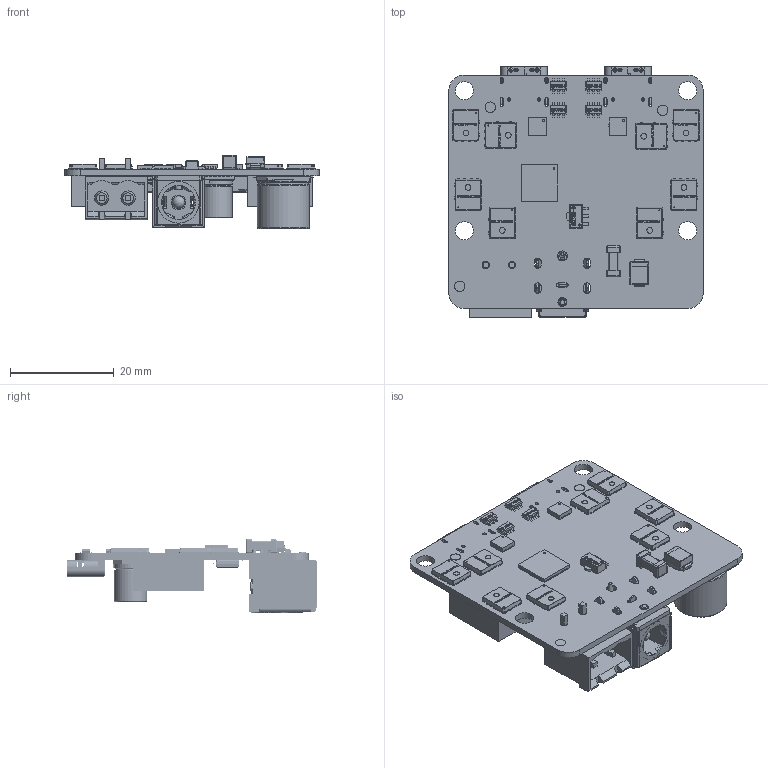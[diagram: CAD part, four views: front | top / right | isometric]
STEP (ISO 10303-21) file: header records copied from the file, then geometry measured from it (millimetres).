
FILE_DESCRIPTION(/* description */ (''),/* implementation_level */ '2;1');
FILE_NAME(/* name */ 'WTF-2xIP6559_Model3D_JWV1.step',/* time_stamp */ '2023-03-27T12:14:18-04:00',/* author */ (''),/* organization */ (''),/* preprocessor_version */ 'ST-DEVELOPER v19.2',/* originating_system */ 'Autodesk Translation Framework v11.17.0.187',/* authorisation */ '');
FILE_SCHEMA (('AUTOMOTIVE_DESIGN { 1 0 10303 214 3 1 1 }'));
Products named in the file (185): (Unsaved); Board; Open CASCADE STEP translator 6.8 1.1.1; DIP-Switch 2; DIP-Switch 1; User_Library-DHN-04F; 750266824; Open_CASCADE_STEP_translator_6.8_20.1; Body; Open_CASCADE_STEP_translator_6.8_20.2.1; Leader; Component; Component (100); Component (75); Component (76); Component (77); Component (69); Component (70); Component (71); Component (72); Component (73); Component (74); Component (68); User_Library-SOT89-3-2; Component (65); Component (66); Component (67); Component (63); Component (64); Component (97); Component (95); Component (96); Component (93); Component (99); Component (92); Component (98); Component (94); Component (91); Component (90); Component (88)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
Assembly tree (218 placements, depth 6):
  (Unsaved)
    Board
      Open CASCADE STEP translator 6.8 1.1.1
    DIP-Switch 2
      User_Library-DHN-04F
        750266824
          Open_CASCADE_STEP_translator_6.8_20.1
          Body
            Open_CASCADE_STEP_translator_6.8_20.2.1
          Leader  x8
    DIP-Switch 1
      User_Library-DHN-04F
        750266824
          Open_CASCADE_STEP_translator_6.8_20.1
          Body
            Open_CASCADE_STEP_translator_6.8_20.2.1
          Leader  x8
    Component
    Component (100)
    Component (75)
    Component (76)
    Component (77)
    Component (69)
    Component (70)
    Component (71)
    Component (72)
    Component (73)
    Component (74)
      User_Library-CC0607
    Component (68)
      User_Library-SOT89-3-2
    Component (65)
    Component (66)
    Component (67)
    Component (63)
    Component (64)
    Component (97)
    Component (95)
    Component (96)
    Component (93)
    Component (99)
    Component (92)
    Component (98)
    Component (94)
    Component (91)
    Component (90)
    Component (88)
    Component (89)
    Component (87)
    Component (101)
    Component (45)
    Component (44)
    Component (43)
    Component (42)
    Component (41)
    Component (40)
    Component (39)
    Component (38)
    Component (37)
    Component (36)
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Bounding box: 49 x 48.23 x 14.16 mm (x, y, z)
Volume: 8029.6 mm3; surface area: 13436.9 mm2
Topology: 122 solids, 138 shells, 8028 faces, 22577 edges, 15069 vertices
Faces by surface type: plane 5451, cylinder 1487, bspline 828, torus 103, cone 82, sphere 77
Full cylindrical faces by diameter (mm): 0.2 x4, 0.34 x4, 0.35 x2, 0.455 x2, 0.5 x4, 0.65 x4, 0.692 x4, 1 x8, 1.1 x8, 1.2 x2, 1.35 x1, 1.4 x2, 1.7 x1, 1.9 x1, 2 x1, 2.032 x6, 2.4 x1, 2.8 x2, 2.85 x2, 3.5 x4, 5.7 x2, 6.3 x4, 6.4 x2, 10 x2
Entity records: 135271 total; most frequent: CARTESIAN_POINT 34034, ORIENTED_EDGE 20528, DIRECTION 18656, EDGE_CURVE 10265, LINE 7660, VECTOR 7660, VERTEX_POINT 6728, AXIS2_PLACEMENT_3D 5498
